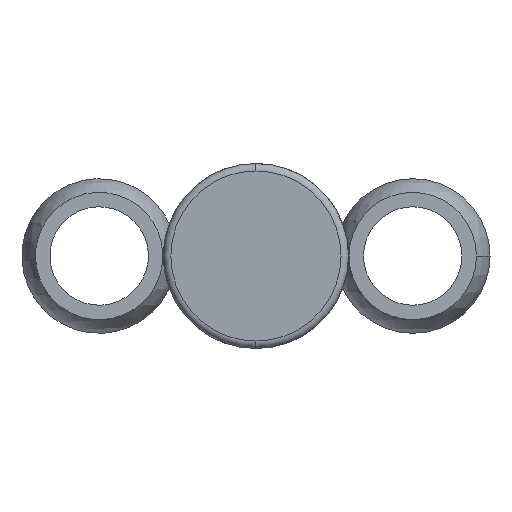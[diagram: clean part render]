
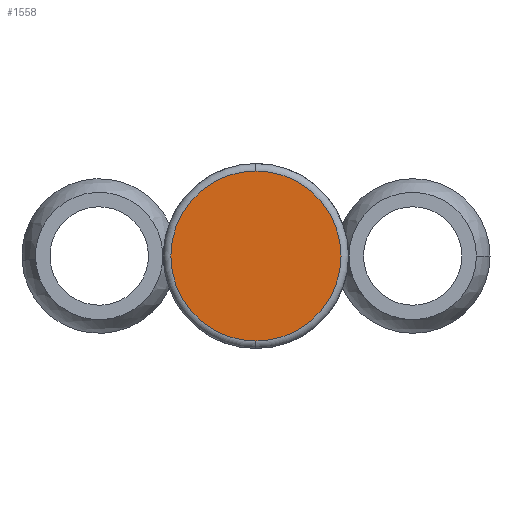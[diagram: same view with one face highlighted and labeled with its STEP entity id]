
A CAD part, front view. The second image highlights one B-rep face of the part: STEP entity #1558.
In plain terms, the highlighted planar face has unit normal (0, -1, 0).
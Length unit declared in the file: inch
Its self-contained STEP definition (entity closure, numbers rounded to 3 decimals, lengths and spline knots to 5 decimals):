
#16 = FACE_OUTER_BOUND ( 'NONE', #1061, .T. ) ;
#68 = PLANE ( 'NONE',  #1438 ) ;
#159 = DIRECTION ( 'NONE',  ( 0., 0., 1. ) ) ;
#188 = EDGE_CURVE ( 'NONE', #923, #1148, #1390, .T. ) ;
#385 = AXIS2_PLACEMENT_3D ( 'NONE', #401, #508, #1271 ) ;
#401 = CARTESIAN_POINT ( 'NONE',  ( 0., -1.26, 0. ) ) ;
#433 = DIRECTION ( 'NONE',  ( 0., 1., 0. ) ) ;
#508 = DIRECTION ( 'NONE',  ( 0., -1., 0. ) ) ;
#534 = CARTESIAN_POINT ( 'NONE',  ( 0., -1.26, 0.34402 ) ) ;
#642 = CARTESIAN_POINT ( 'NONE',  ( 0., -1.26, 0. ) ) ;
#732 = AXIS2_PLACEMENT_3D ( 'NONE', #642, #1531, #159 ) ;
#842 = EDGE_CURVE ( 'NONE', #1148, #923, #1180, .T. ) ;
#923 = VERTEX_POINT ( 'NONE', #534 ) ;
#948 = CARTESIAN_POINT ( 'NONE',  ( 0., -1.26, 0. ) ) ;
#1061 = EDGE_LOOP ( 'NONE', ( #1447, #1230 ) ) ;
#1148 = VERTEX_POINT ( 'NONE', #1588 ) ;
#1180 = CIRCLE ( 'NONE', #732, 0.34402 ) ;
#1230 = ORIENTED_EDGE ( 'NONE', *, *, #842, .T. ) ;
#1271 = DIRECTION ( 'NONE',  ( 0., 0., 1. ) ) ;
#1390 = CIRCLE ( 'NONE', #385, 0.34402 ) ;
#1438 = AXIS2_PLACEMENT_3D ( 'NONE', #948, #433, #1578 ) ;
#1447 = ORIENTED_EDGE ( 'NONE', *, *, #188, .T. ) ;
#1531 = DIRECTION ( 'NONE',  ( 0., -1., 0. ) ) ;
#1558 = ADVANCED_FACE ( 'NONE', ( #16 ), #68, .F. ) ;
#1578 = DIRECTION ( 'NONE',  ( 0., 0., 1. ) ) ;
#1588 = CARTESIAN_POINT ( 'NONE',  ( 0., -1.26, -0.34402 ) ) ;
